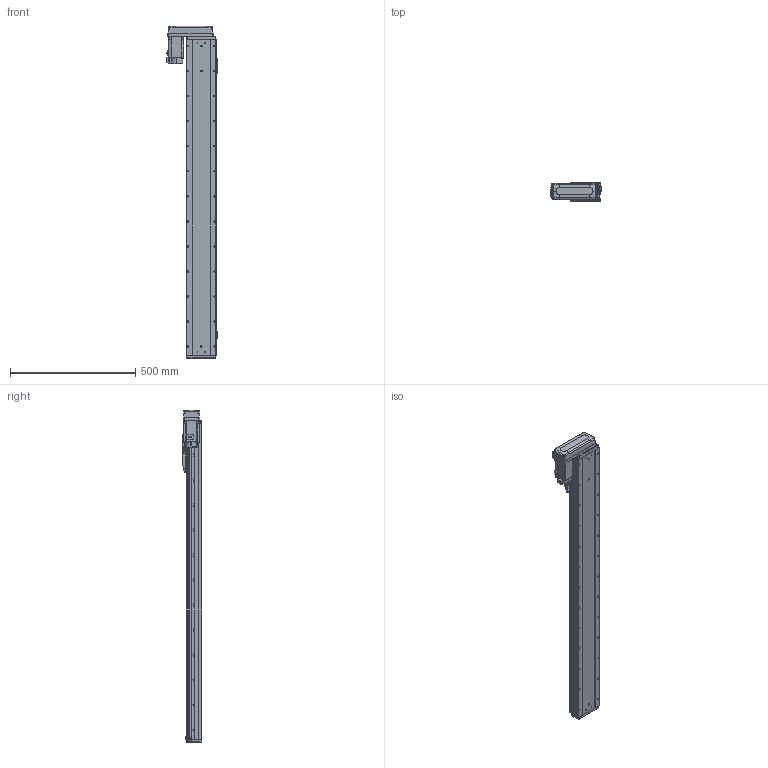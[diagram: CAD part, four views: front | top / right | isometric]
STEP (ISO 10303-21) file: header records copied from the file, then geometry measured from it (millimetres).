
FILE_DESCRIPTION (( 'STEP AP203' ), '1' );
FILE_NAME ('GTH12-1050-BR-M40-C4.step', '2023-07-05T00:04:55', ( '微软用户' ), ( '微软中国' ), 'SwSTEP 2.0', 'SolidWorks 2020', '' );
FILE_SCHEMA (( 'CONFIG_CONTROL_DESIGN' ));
Length unit declared in the file: millimetre
Products named in the file (18): GTH120-027-1_GTH120-027-2; GTH120-004; GTH50-023; GTH12-1050-BR-M40-C4; GTH120-013; GTH50-024; GBT 70.1-M3℅6; GBT96.1-2002 3×0.8; GBT 70.1-M5×16; BTH-M3X5X6; GTH120-001_1050; GBT 70.3-M3℅8; hg-kn43j_-s100_; GTH120-003; GTH80-022; CTHA86-033_M40B; GTH120-006; GTH80-028
Assembly tree (59 placements, depth 2):
  GTH12-1050-BR-M40-C4
    GTH120-001_1050
    GTH120-003
    GTH120-006
    GTH120-004
    GTH120-013
    GBT 70.1-M3℅6  x14
    GBT 70.1-M5×16  x10
    GBT 70.3-M3℅8  x4
    GTH80-022
    GTH80-028  x2
    GTH50-023  x3
    GTH50-024  x3
    GBT96.1-2002 3×0.8  x6
    BTH-M3X5X6  x8
    hg-kn43j_-s100_
    CTHA86-033_M40B
    GTH120-027-1_GTH120-027-2
Bounding box: 203.5 x 76 x 1325.5 mm (x, y, z)
Volume: 9494602.8 mm3; surface area: 807578.1 mm2
Topology: 61 solids, 61 shells, 2543 faces, 5960 edges, 3659 vertices
Faces by surface type: plane 1294, cylinder 753, cone 308, torus 174, sphere 8, bspline 6
Entity records: 48682 total; most frequent: CARTESIAN_POINT 8248, DIRECTION 8100, ORIENTED_EDGE 7530, EDGE_CURVE 3765, AXIS2_PLACEMENT_3D 2832, LINE 2436, VECTOR 2436, VERTEX_POINT 2380
